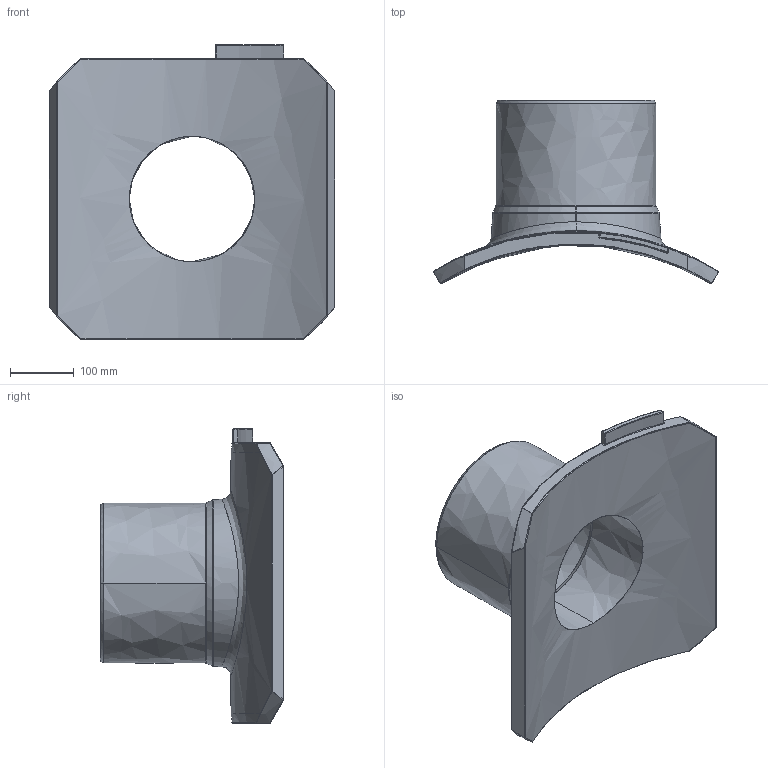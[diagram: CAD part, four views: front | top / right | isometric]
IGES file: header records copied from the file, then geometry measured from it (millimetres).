
Start section:  PTC IGES file: sa-uni_d800_250_01.igs
Global section: file name: sa-uni_d800_250_01.igs; native system: Creo Parametric by PTC Inc.; preprocessor: 2022124; author: mikulicp; organization: Unknown; date: 20240701.113305; units: millimetre
Bounding box: 445.77 x 286.19 x 460 mm (x, y, z)
Surface area: 677131.5 mm2 (no closed solid volume)
Topology: 0 solids, 0 shells, 239 faces, 1150 edges, 1150 vertices
Faces by surface type: bspline 239
